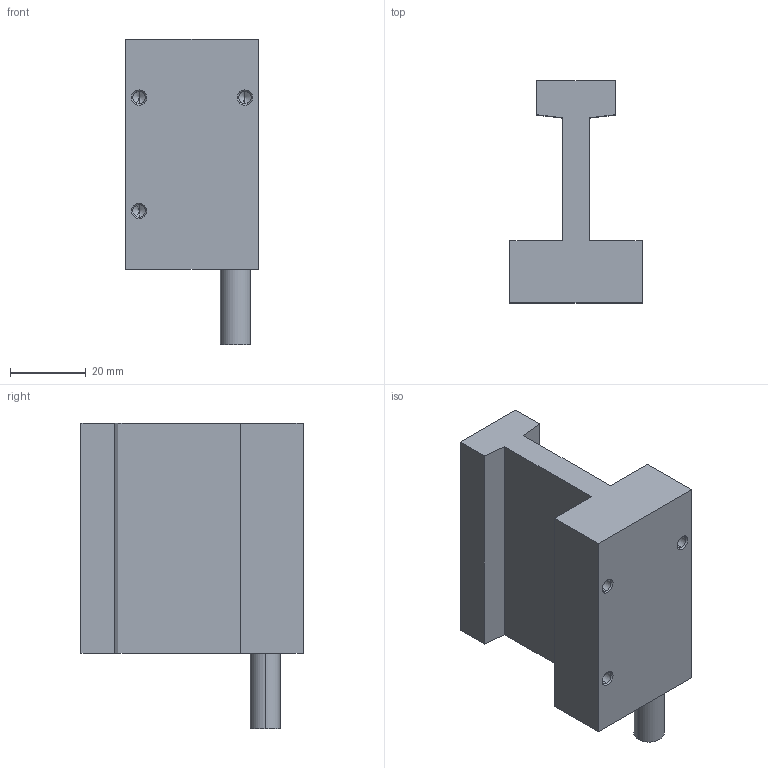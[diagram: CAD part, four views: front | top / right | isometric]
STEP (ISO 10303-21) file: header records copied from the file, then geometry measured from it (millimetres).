
FILE_DESCRIPTION (( 'STEP AP214' ), '1' );
FILE_NAME ('JKA31.STEP', '2025-09-05T12:42:50', ( '' ), ( '' ), 'SwSTEP 2.0', 'SolidWorks 2016', '' );
FILE_SCHEMA (( 'AUTOMOTIVE_DESIGN' ));
Length unit declared in the file: millimetre
Products named in the file (1): JKA31
Bounding box: 35 x 58.8 x 81 mm (x, y, z)
Volume: 62089.8 mm3; surface area: 15910.2 mm2
Topology: 1 solids, 1 shells, 35 faces, 84 edges, 49 vertices
Faces by surface type: plane 15, cone 12, cylinder 8
Entity records: 1062 total; most frequent: DIRECTION 172, CARTESIAN_POINT 163, ORIENTED_EDGE 156, EDGE_CURVE 78, AXIS2_PLACEMENT_3D 58, VECTOR 56, LINE 56, VERTEX_POINT 49
